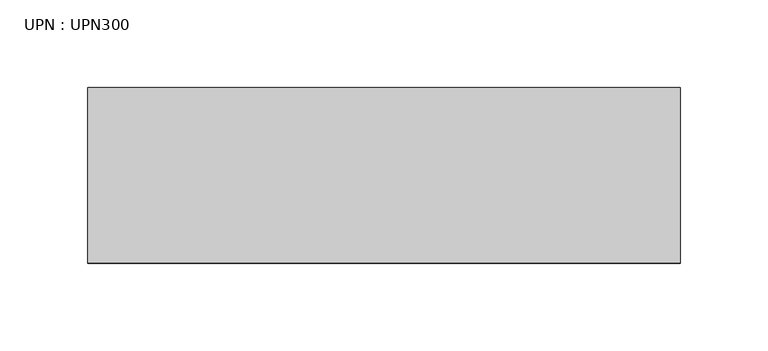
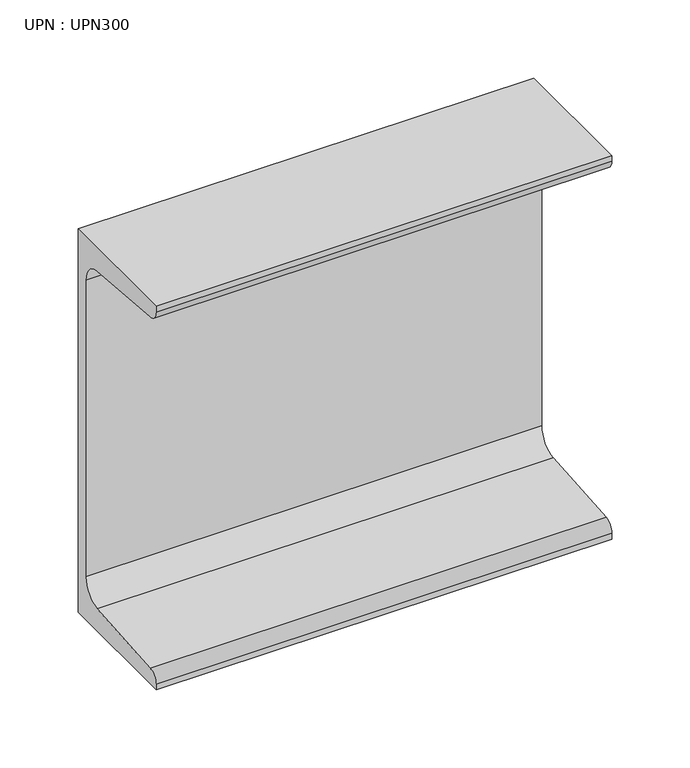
"""IFC4 building model written with IfcOpenShell, lengths in millimetres: beam geometry, UPN : UPN300."""

import ifcopenshell
import ifcopenshell.guid

model = None  # the IFC model being written
_history = None  # IfcOwnerHistory: only IFC2X3 demands one
_inside = {}  # id of a spatial element -> (the spatial element, [elements in it])
_under = {}  # id of a project, library or spatial element -> (it, [spatial elements below it])
_declared = {}  # id of a project -> (the project, [libraries it declares])
_typed = {}  # id of a type object -> (the type object, [elements of that type])
_made_of = {}  # id of a material, layer set ... -> (it, [elements and type objects made of it])


def new_model(schema):
    """Start an empty IFC model of exactly this schema.

    Asked for "IFC4X3", IfcOpenShell would pick the latest addendum, in which some entities
    have other attributes; the version numbers below select the first issue.
    IFC2X3 requires an IfcOwnerHistory on every rooted entity: one is made here for all.
    """
    global model, _history
    if schema == "IFC4X3":
        model = ifcopenshell.file(schema_version=(4, 3, 0, 0))
    else:
        model = ifcopenshell.file(schema=schema)
    _inside.clear()
    _under.clear()
    _declared.clear()
    _typed.clear()
    _made_of.clear()
    _history = None
    if model.schema == "IFC2X3":
        org = make("IfcOrganization", Name="unknown")
        user = make(
            "IfcPersonAndOrganization",
            ThePerson=make("IfcPerson", FamilyName="unknown"),
            TheOrganization=org,
        )
        app = make(
            "IfcApplication",
            ApplicationDeveloper=org,
            Version="unknown",
            ApplicationFullName="unknown",
            ApplicationIdentifier="unknown",
        )
        _history = make(
            "IfcOwnerHistory",
            OwningUser=user,
            OwningApplication=app,
            ChangeAction="ADDED",
            CreationDate=0,
        )
    return model


def make(cls, **values):
    """One entity of the class cls with the attributes given. An attribute that is None is left unset."""
    return model.create_entity(
        cls, **{name: value for name, value in values.items() if value is not None}
    )


def rooted(cls, **values):
    """An entity with a GlobalId (a new one), such as an element, a storey or a relation."""
    return make(cls, GlobalId=ifcopenshell.guid.new(), OwnerHistory=_history, **values)


def si_unit(unit_type, name, prefix=None):
    """IfcSIUnit, for example si_unit("LENGTHUNIT", "METRE", prefix="MILLI")."""
    return make("IfcSIUnit", UnitType=unit_type, Prefix=prefix, Name=name)


def assignment(units):
    """IfcUnitAssignment: the units of a project."""
    return None if units is None else make("IfcUnitAssignment", Units=units)


def point(xyz):
    """IfcCartesianPoint."""
    return None if xyz is None else make("IfcCartesianPoint", Coordinates=xyz)


def direction(xyz):
    """IfcDirection."""
    return None if xyz is None else make("IfcDirection", DirectionRatios=xyz)


def frame(location, z_axis=None, x_axis=None):
    """IfcAxis2Placement3D, a coordinate frame: its origin and axes. An axis left out is left unset."""
    return make(
        "IfcAxis2Placement3D",
        Location=point(location),
        Axis=direction(z_axis),
        RefDirection=direction(x_axis),
    )


def frame_2d(location, x_axis=None):
    """IfcAxis2Placement2D, a coordinate frame in the plane: its origin and x axis."""
    return make(
        "IfcAxis2Placement2D", Location=point(location), RefDirection=direction(x_axis)
    )


def origin():
    """The frame at (0, 0, 0) with its axes left unset."""
    return frame((0.0, 0.0, 0.0))


def place(relative_to, where):
    """IfcLocalPlacement: puts the frame where relative to a parent placement (None: the world)."""
    return make(
        "IfcLocalPlacement", PlacementRelTo=relative_to, RelativePlacement=where
    )


def context(
    kind, dimensions, precision=None, world=None, true_north=None, identifier=None
):
    """IfcGeometricRepresentationContext, for example the 3D "Model" context."""
    return make(
        "IfcGeometricRepresentationContext",
        ContextIdentifier=identifier,
        ContextType=kind,
        CoordinateSpaceDimension=dimensions,
        Precision=precision,
        WorldCoordinateSystem=world,
        TrueNorth=true_north,
    )


def project(units=None, contexts=None):
    """IfcProject with its units and contexts."""
    return rooted(
        "IfcProject",
        Name="project",
        RepresentationContexts=contexts,
        UnitsInContext=assignment(units),
    )


def spatial(cls, under=None, at=None, **own):
    """A site, building, storey or space (cls), placed at a placement, below another one or the project."""
    s = rooted(cls, ObjectPlacement=at, **own)
    if under is not None:
        _under.setdefault(under.id(), (under, []))[1].append(s)
    return s


def polyline(points):
    """IfcPolyline through the points."""
    return make("IfcPolyline", Points=[point(p) for p in points])


def circle_curve(where, radius):
    """IfcCircle in the frame where."""
    return make("IfcCircle", Position=where, Radius=radius)


def trimmed(basis, trim1, trim2, sense, master):
    """IfcTrimmedCurve: the piece of a basis curve between two trims."""
    return make(
        "IfcTrimmedCurve",
        BasisCurve=basis,
        Trim1=trim1,
        Trim2=trim2,
        SenseAgreement=sense,
        MasterRepresentation=master,
    )


def segment(curve, same_sense, transition):
    """IfcCompositeCurveSegment."""
    return make(
        "IfcCompositeCurveSegment",
        Transition=transition,
        SameSense=same_sense,
        ParentCurve=curve,
    )


def composite_curve(segments, self_intersect=None):
    """IfcCompositeCurve: segments joined end to end."""
    return make("IfcCompositeCurve", Segments=segments, SelfIntersect=self_intersect)


def outline(outer, holes=None, kind="AREA"):
    """IfcArbitraryClosedProfileDef: a profile drawn as a closed curve; with holes, ...WithVoids."""
    if holes is None:
        return make("IfcArbitraryClosedProfileDef", ProfileType=kind, OuterCurve=outer)
    return make(
        "IfcArbitraryProfileDefWithVoids",
        ProfileType=kind,
        OuterCurve=outer,
        InnerCurves=holes,
    )


def extrude(swept, where, along, depth):
    """IfcExtrudedAreaSolid: the profile swept, set in the frame where, extruded along a direction by depth."""
    return make(
        "IfcExtrudedAreaSolid",
        SweptArea=swept,
        Position=where,
        ExtrudedDirection=direction(along),
        Depth=depth,
    )


def shape(context_of_items, identifier, shape_type, items):
    """IfcShapeRepresentation: the items that make up one representation, for example the "Body"."""
    return make(
        "IfcShapeRepresentation",
        ContextOfItems=context_of_items,
        RepresentationIdentifier=identifier,
        RepresentationType=shape_type,
        Items=items,
    )


def source(mapping_origin, context_of_items, identifier, shape_type, items):
    """IfcRepresentationMap: a shape defined once, which mapped items show again and again."""
    return make(
        "IfcRepresentationMap",
        MappingOrigin=mapping_origin,
        MappedRepresentation=shape(context_of_items, identifier, shape_type, items),
    )


def transform(
    local_origin,
    x_axis=None,
    y_axis=None,
    z_axis=None,
    scale=None,
    scale2=None,
    scale3=None,
    uniform=True,
):
    """IfcCartesianTransformationOperator3D, or its non-uniform kind. x_axis, y_axis, z_axis: its Axis1, 2, 3."""
    if uniform:
        return make(
            "IfcCartesianTransformationOperator3D",
            Axis1=direction(x_axis),
            Axis2=direction(y_axis),
            LocalOrigin=point(local_origin),
            Scale=scale,
            Axis3=direction(z_axis),
        )
    return make(
        "IfcCartesianTransformationOperator3DnonUniform",
        Axis1=direction(x_axis),
        Axis2=direction(y_axis),
        LocalOrigin=point(local_origin),
        Scale=scale,
        Axis3=direction(z_axis),
        Scale2=scale2,
        Scale3=scale3,
    )


def mapped(mapping_source, mapping_target):
    """IfcMappedItem: shows the shape of a source again, moved by a transform."""
    return make(
        "IfcMappedItem", MappingSource=mapping_source, MappingTarget=mapping_target
    )


def made_of(thing, what):
    """Note that an element or type object is made of a material, layer set ...; save() writes the relation."""
    if what is not None:
        _made_of.setdefault(what.id(), (what, []))[1].append(thing)
    return thing


def element(
    cls,
    number,
    at=None,
    inside=None,
    cuts=None,
    type_object=None,
    material=None,
    context=None,
    identifier="Body",
    shape_type=None,
    held_by="IfcProductDefinitionShape",
    body=None,
    shapes=None,
    **own,
):
    """One element of the class cls, such as IfcWall. Its Tag is "e" and its number.

    at: its placement. inside: the storey or other place that contains it. cuts: it is an
    opening in that element (IfcRelVoidsElement). A single representation is given by context,
    identifier, shape_type and body (its items); several are given by shapes. held_by: the class
    of the entity that holds the representations. save() writes the other relations.
    """
    e = rooted(cls, Tag="e%d" % number, ObjectPlacement=at, **own)
    if body is not None:
        shapes = [shape(context, identifier, shape_type, body)]
    if shapes is not None:
        e.Representation = make(held_by, Representations=shapes)
    if inside is not None:
        _inside.setdefault(inside.id(), (inside, []))[1].append(e)
    if cuts is not None:
        rooted(
            "IfcRelVoidsElement", RelatingBuildingElement=cuts, RelatedOpeningElement=e
        )
    if type_object is not None:
        _typed.setdefault(type_object.id(), (type_object, []))[1].append(e)
    return made_of(e, material)


def aggregate(whole, parts):
    """IfcRelAggregates: a whole, such as a stair, and the parts it consists of."""
    return rooted("IfcRelAggregates", RelatingObject=whole, RelatedObjects=parts)


def save(model, path):
    """Write the relations noted so far, then the file.

    IfcRelAggregates (storeys below a building ...), IfcRelContainedInSpatialStructure (elements
    in a storey), IfcRelDefinesByType, IfcRelAssociatesMaterial and IfcRelDeclares: one each for
    every whole, place, type object, material and project.
    """
    for whole, parts in _under.values():
        aggregate(whole, parts)
    for where, things in _inside.values():
        rooted(
            "IfcRelContainedInSpatialStructure",
            RelatedElements=things,
            RelatingStructure=where,
        )
    for kind, things in _typed.values():
        rooted("IfcRelDefinesByType", RelatedObjects=things, RelatingType=kind)
    for what, things in _made_of.values():
        rooted("IfcRelAssociatesMaterial", RelatedObjects=things, RelatingMaterial=what)
    for by, libraries in _declared.values():
        rooted("IfcRelDeclares", RelatingContext=by, RelatedDefinitions=libraries)
    model.write(path)


def upn_upn300_0a8c01f7(model_context):
    return source(origin(), model_context, "Body", "SweptSolid", [
        extrude(outline(composite_curve([segment(polyline([(27.0, 150.0), (27.0, -150.0), (-73.0, -150.0), (-73.0, -145.3826224)]), True, "CONTINUOUS"), segment(trimmed(circle_curve(frame_2d((-65.0, -145.3826224)), 8.0), [point((-73.0, -145.3826224))], [point((-65.637416, -137.4080566))], False, "CARTESIAN"), True, "CONTINUOUS"), segment(polyline([(-65.637416, -137.4080566), (2.274832, -131.9797543)]), True, "CONTINUOUS"), segment(trimmed(circle_curve(frame_2d((1.0, -116.0306225)), 16.0), [point((2.274832, -131.9797543))], [point((17.0, -116.0306225))], True, "CARTESIAN"), True, "CONTINUOUS"), segment(polyline([(17.0, -116.0306225), (17.0, 116.0306225)]), True, "CONTINUOUS"), segment(trimmed(circle_curve(frame_2d((1.0, 116.0306225)), 16.0), [point((17.0, 116.0306225))], [point((2.274832, 131.9797543))], True, "CARTESIAN"), True, "CONTINUOUS"), segment(polyline([(2.274832, 131.9797543), (-65.637416, 137.4080566)]), True, "CONTINUOUS"), segment(trimmed(circle_curve(frame_2d((-65.0, 145.3826224)), 8.0), [point((-65.637416, 137.4080566))], [point((-73.0, 145.3826224))], False, "CARTESIAN"), True, "CONTINUOUS"), segment(polyline([(-73.0, 145.3826224), (-73.0, 150.0), (27.0, 150.0)]), True, "CONTINUOUS")], self_intersect=False)), frame((-116.35, 0.0, 0.0), z_axis=(1.0, 0.0, 0.0), x_axis=(0.0, 1.0, 0.0)), (0.0, 0.0, 1.0), 337.3),
    ])


if __name__ == "__main__":
    model = new_model("IFC4")
    model_context = context("Model", 3, world=origin())
    ifc_project = project(units=[si_unit("LENGTHUNIT", "METRE", prefix="MILLI")], contexts=[model_context])
    site = spatial("IfcSite", under=ifc_project)
    building = spatial("IfcBuilding", under=site)
    placement = place(None, origin())
    upn_upn300_shape = upn_upn300_0a8c01f7(model_context)
    element("IfcBeam", 1, ObjectType="UPN : UPN300", at=placement, inside=building, context=model_context, shape_type="MappedRepresentation", body=[
        mapped(upn_upn300_shape, transform((0.0, 0.0, 0.0), x_axis=(1.0, 0.0, 0.0), y_axis=(0.0, 1.0, 0.0), z_axis=(0.0, 0.0, 1.0))),
    ])
    save(model, "model.ifc")
